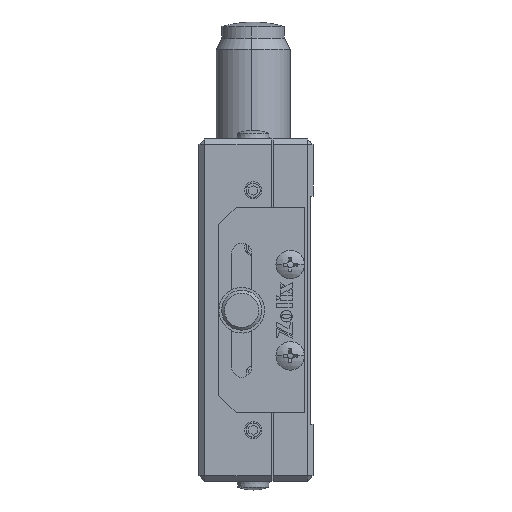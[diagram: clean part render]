
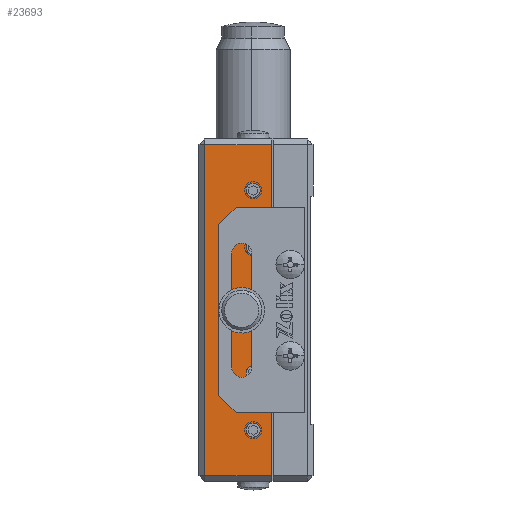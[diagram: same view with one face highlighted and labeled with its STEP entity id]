
A CAD part, left-side view. The second image highlights one B-rep face of the part: STEP entity #23693.
In plain terms, the highlighted planar face has unit normal (-1, 0, 0).
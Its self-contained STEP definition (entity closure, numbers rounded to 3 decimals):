
#14 = LINE ( 'NONE', #24874, #20201 ) ;
#288 = CARTESIAN_POINT ( 'NONE',  ( -30., 12.5, 0. ) ) ;
#532 = VERTEX_POINT ( 'NONE', #21778 ) ;
#533 = ORIENTED_EDGE ( 'NONE', *, *, #23173, .F. ) ;
#537 = DIRECTION ( 'NONE',  ( 0., 0., 1. ) ) ;
#720 = EDGE_CURVE ( 'NONE', #30229, #1264, #31333, .T. ) ;
#961 = DIRECTION ( 'NONE',  ( 0., 0., 1. ) ) ;
#1107 = DIRECTION ( 'NONE',  ( 0., 0., 1. ) ) ;
#1238 = ORIENTED_EDGE ( 'NONE', *, *, #18109, .F. ) ;
#1257 = ORIENTED_EDGE ( 'NONE', *, *, #10768, .F. ) ;
#1264 = VERTEX_POINT ( 'NONE', #13950 ) ;
#1303 = VECTOR ( 'NONE', #19603, 1000. ) ;
#1421 = CARTESIAN_POINT ( 'NONE',  ( -30., 7.3, -29. ) ) ;
#1574 = DIRECTION ( 'NONE',  ( 0., 0., 1. ) ) ;
#1612 = CIRCLE ( 'NONE', #28691, 1.25 ) ;
#1774 = VERTEX_POINT ( 'NONE', #21550 ) ;
#1845 = FACE_BOUND ( 'NONE', #30088, .T. ) ;
#2202 = FACE_BOUND ( 'NONE', #11123, .T. ) ;
#2388 = CARTESIAN_POINT ( 'NONE',  ( -30., 10.5, -11. ) ) ;
#2908 = LINE ( 'NONE', #18085, #31404 ) ;
#2923 = EDGE_CURVE ( 'NONE', #21943, #3654, #14, .T. ) ;
#2980 = FACE_BOUND ( 'NONE', #24798, .T. ) ;
#3015 = CIRCLE ( 'NONE', #24118, 1.25 ) ;
#3109 = CARTESIAN_POINT ( 'NONE',  ( -30., 10.5, 11. ) ) ;
#3654 = VERTEX_POINT ( 'NONE', #12931 ) ;
#3733 = DIRECTION ( 'NONE',  ( 0., 0., -1. ) ) ;
#4375 = DIRECTION ( 'NONE',  ( -1., 0., 0. ) ) ;
#4764 = CARTESIAN_POINT ( 'NONE',  ( -30., 19., -29. ) ) ;
#5173 = EDGE_LOOP ( 'NONE', ( #1238, #10049 ) ) ;
#5904 = DIRECTION ( 'NONE',  ( 0., 0., 1. ) ) ;
#6429 = CIRCLE ( 'NONE', #20472, 1.25 ) ;
#6528 = EDGE_CURVE ( 'NONE', #18708, #21943, #15040, .T. ) ;
#6669 = EDGE_CURVE ( 'NONE', #1774, #14319, #10482, .T. ) ;
#6807 = ORIENTED_EDGE ( 'NONE', *, *, #6528, .T. ) ;
#7402 = LINE ( 'NONE', #1421, #12748 ) ;
#7672 = DIRECTION ( 'NONE',  ( 0., 0., 1. ) ) ;
#7977 = AXIS2_PLACEMENT_3D ( 'NONE', #8247, #27527, #5904 ) ;
#7991 = VERTEX_POINT ( 'NONE', #17844 ) ;
#8247 = CARTESIAN_POINT ( 'NONE',  ( -30., 10.5, 21. ) ) ;
#8547 = ORIENTED_EDGE ( 'NONE', *, *, #10598, .F. ) ;
#8791 = CARTESIAN_POINT ( 'NONE',  ( -30., 10.5, -21. ) ) ;
#10049 = ORIENTED_EDGE ( 'NONE', *, *, #720, .F. ) ;
#10428 = CARTESIAN_POINT ( 'NONE',  ( -30., 10.5, -22.25 ) ) ;
#10473 = ORIENTED_EDGE ( 'NONE', *, *, #14966, .F. ) ;
#10482 = CIRCLE ( 'NONE', #17028, 1.25 ) ;
#10594 = CARTESIAN_POINT ( 'NONE',  ( -30., 10.5, -11. ) ) ;
#10598 = EDGE_CURVE ( 'NONE', #532, #18978, #1612, .T. ) ;
#10768 = EDGE_CURVE ( 'NONE', #18978, #532, #21140, .T. ) ;
#10985 = EDGE_LOOP ( 'NONE', ( #6807, #15542, #21918, #22950 ) ) ;
#11114 = AXIS2_PLACEMENT_3D ( 'NONE', #10594, #30204, #961 ) ;
#11123 = EDGE_LOOP ( 'NONE', ( #533, #21231 ) ) ;
#11143 = CARTESIAN_POINT ( 'NONE',  ( -30., 10.5, 19.75 ) ) ;
#11773 = FACE_OUTER_BOUND ( 'NONE', #10985, .T. ) ;
#11877 = CARTESIAN_POINT ( 'NONE',  ( -30., 7.3, -30. ) ) ;
#11933 = AXIS2_PLACEMENT_3D ( 'NONE', #8791, #13872, #18635 ) ;
#12075 = VERTEX_POINT ( 'NONE', #10428 ) ;
#12748 = VECTOR ( 'NONE', #20888, 1000. ) ;
#12931 = CARTESIAN_POINT ( 'NONE',  ( -30., 19., 29. ) ) ;
#13480 = DIRECTION ( 'NONE',  ( -1., 0., 0. ) ) ;
#13872 = DIRECTION ( 'NONE',  ( -1., 0., 0. ) ) ;
#13950 = CARTESIAN_POINT ( 'NONE',  ( -30., 12.5, 1.25 ) ) ;
#14074 = EDGE_CURVE ( 'NONE', #14319, #1774, #17892, .T. ) ;
#14159 = AXIS2_PLACEMENT_3D ( 'NONE', #24877, #22197, #29756 ) ;
#14319 = VERTEX_POINT ( 'NONE', #29950 ) ;
#14362 = DIRECTION ( 'NONE',  ( 0., 0., 1. ) ) ;
#14680 = EDGE_CURVE ( 'NONE', #7991, #30896, #6429, .T. ) ;
#14966 = EDGE_CURVE ( 'NONE', #12075, #26567, #20489, .T. ) ;
#15040 = LINE ( 'NONE', #11877, #1303 ) ;
#15542 = ORIENTED_EDGE ( 'NONE', *, *, #2923, .T. ) ;
#15666 = CIRCLE ( 'NONE', #19905, 1.25 ) ;
#16044 = AXIS2_PLACEMENT_3D ( 'NONE', #288, #19774, #7672 ) ;
#16365 = DIRECTION ( 'NONE',  ( 0., 0., 1. ) ) ;
#16373 = VERTEX_POINT ( 'NONE', #4764 ) ;
#16464 = CARTESIAN_POINT ( 'NONE',  ( -30., 10.5, 21. ) ) ;
#16611 = EDGE_CURVE ( 'NONE', #3654, #16373, #2908, .T. ) ;
#16935 = CARTESIAN_POINT ( 'NONE',  ( -30., 10.5, -9.75 ) ) ;
#17028 = AXIS2_PLACEMENT_3D ( 'NONE', #3109, #19705, #537 ) ;
#17760 = CARTESIAN_POINT ( 'NONE',  ( -30., 10.5, -19.75 ) ) ;
#17844 = CARTESIAN_POINT ( 'NONE',  ( -30., 10.5, -12.25 ) ) ;
#17892 = CIRCLE ( 'NONE', #23916, 1.25 ) ;
#18085 = CARTESIAN_POINT ( 'NONE',  ( -30., 19., -30. ) ) ;
#18109 = EDGE_CURVE ( 'NONE', #1264, #30229, #15666, .T. ) ;
#18635 = DIRECTION ( 'NONE',  ( 0., 0., 1. ) ) ;
#18708 = VERTEX_POINT ( 'NONE', #23756 ) ;
#18978 = VERTEX_POINT ( 'NONE', #11143 ) ;
#19525 = DIRECTION ( 'NONE',  ( 0., 0., 1. ) ) ;
#19603 = DIRECTION ( 'NONE',  ( 0., 0., 1. ) ) ;
#19628 = DIRECTION ( 'NONE',  ( -1., 0., 0. ) ) ;
#19705 = DIRECTION ( 'NONE',  ( -1., 0., 0. ) ) ;
#19774 = DIRECTION ( 'NONE',  ( -1., 0., 0. ) ) ;
#19905 = AXIS2_PLACEMENT_3D ( 'NONE', #28348, #28244, #1574 ) ;
#20201 = VECTOR ( 'NONE', #29750, 1000. ) ;
#20472 = AXIS2_PLACEMENT_3D ( 'NONE', #2388, #19628, #19525 ) ;
#20489 = CIRCLE ( 'NONE', #11933, 1.25 ) ;
#20888 = DIRECTION ( 'NONE',  ( 0., -1., 0. ) ) ;
#21140 = CIRCLE ( 'NONE', #7977, 1.25 ) ;
#21231 = ORIENTED_EDGE ( 'NONE', *, *, #14680, .F. ) ;
#21550 = CARTESIAN_POINT ( 'NONE',  ( -30., 10.5, 9.75 ) ) ;
#21555 = DIRECTION ( 'NONE',  ( -1., 0., 0. ) ) ;
#21778 = CARTESIAN_POINT ( 'NONE',  ( -30., 10.5, 22.25 ) ) ;
#21795 = CIRCLE ( 'NONE', #11114, 1.25 ) ;
#21918 = ORIENTED_EDGE ( 'NONE', *, *, #16611, .T. ) ;
#21943 = VERTEX_POINT ( 'NONE', #22139 ) ;
#22139 = CARTESIAN_POINT ( 'NONE',  ( -30., 7.3, 29. ) ) ;
#22197 = DIRECTION ( 'NONE',  ( -1., 0., 0. ) ) ;
#22743 = EDGE_CURVE ( 'NONE', #16373, #18708, #7402, .T. ) ;
#22950 = ORIENTED_EDGE ( 'NONE', *, *, #22743, .T. ) ;
#23046 = EDGE_LOOP ( 'NONE', ( #27725, #30039 ) ) ;
#23133 = FACE_BOUND ( 'NONE', #23046, .T. ) ;
#23173 = EDGE_CURVE ( 'NONE', #30896, #7991, #21795, .T. ) ;
#23693 = ADVANCED_FACE ( 'NONE', ( #11773, #28460, #2202, #1845, #2980, #23133 ), #27492, .T. ) ;
#23756 = CARTESIAN_POINT ( 'NONE',  ( -30., 7.3, -29. ) ) ;
#23916 = AXIS2_PLACEMENT_3D ( 'NONE', #26520, #4375, #14362 ) ;
#24107 = ORIENTED_EDGE ( 'NONE', *, *, #29497, .F. ) ;
#24118 = AXIS2_PLACEMENT_3D ( 'NONE', #30234, #13480, #1107 ) ;
#24798 = EDGE_LOOP ( 'NONE', ( #8547, #1257 ) ) ;
#24874 = CARTESIAN_POINT ( 'NONE',  ( -30., 7.3, 29. ) ) ;
#24877 = CARTESIAN_POINT ( 'NONE',  ( -30., 7.3, -30. ) ) ;
#26520 = CARTESIAN_POINT ( 'NONE',  ( -30., 10.5, 11. ) ) ;
#26567 = VERTEX_POINT ( 'NONE', #17760 ) ;
#27492 = PLANE ( 'NONE',  #14159 ) ;
#27527 = DIRECTION ( 'NONE',  ( -1., 0., 0. ) ) ;
#27725 = ORIENTED_EDGE ( 'NONE', *, *, #14074, .F. ) ;
#28244 = DIRECTION ( 'NONE',  ( -1., 0., 0. ) ) ;
#28348 = CARTESIAN_POINT ( 'NONE',  ( -30., 12.5, 0. ) ) ;
#28460 = FACE_BOUND ( 'NONE', #5173, .T. ) ;
#28691 = AXIS2_PLACEMENT_3D ( 'NONE', #16464, #21555, #16365 ) ;
#28978 = CARTESIAN_POINT ( 'NONE',  ( -30., 12.5, -1.25 ) ) ;
#29497 = EDGE_CURVE ( 'NONE', #26567, #12075, #3015, .T. ) ;
#29750 = DIRECTION ( 'NONE',  ( 0., 1., 0. ) ) ;
#29756 = DIRECTION ( 'NONE',  ( 0., 0., 1. ) ) ;
#29950 = CARTESIAN_POINT ( 'NONE',  ( -30., 10.5, 12.25 ) ) ;
#30039 = ORIENTED_EDGE ( 'NONE', *, *, #6669, .F. ) ;
#30088 = EDGE_LOOP ( 'NONE', ( #24107, #10473 ) ) ;
#30204 = DIRECTION ( 'NONE',  ( -1., 0., 0. ) ) ;
#30229 = VERTEX_POINT ( 'NONE', #28978 ) ;
#30234 = CARTESIAN_POINT ( 'NONE',  ( -30., 10.5, -21. ) ) ;
#30896 = VERTEX_POINT ( 'NONE', #16935 ) ;
#31333 = CIRCLE ( 'NONE', #16044, 1.25 ) ;
#31404 = VECTOR ( 'NONE', #3733, 1000. ) ;
